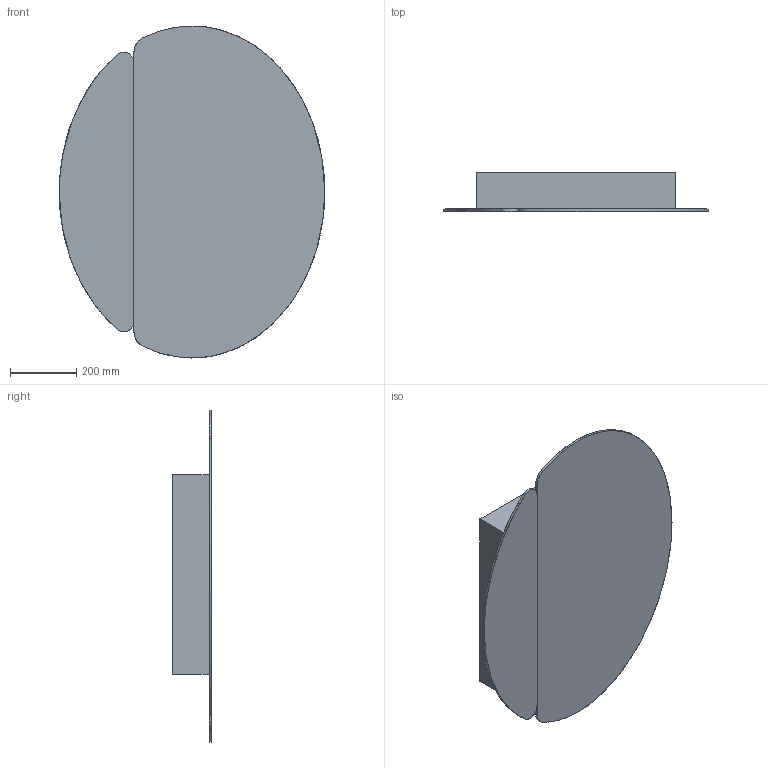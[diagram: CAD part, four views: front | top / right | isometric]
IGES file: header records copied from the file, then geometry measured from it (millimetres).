
Global section: file name: \\Archi-NAS\Comune\X GIOVANNI\SPECCHI\MIRR HIDE\MIRR HIDE_VERTICAL.igs; native system: Rhinoceros ( Feb 23 2021 ); preprocessor: Trout Lake IGES 012 Feb 23 2021; date: 230608.080022; units: millimetre
Bounding box: 800 x 117 x 1000 mm (x, y, z)
Surface area: 2806162.9 mm2 (no closed solid volume)
Topology: 0 solids, 0 shells, 44 faces, 196 edges, 196 vertices
Faces by surface type: bspline 44
